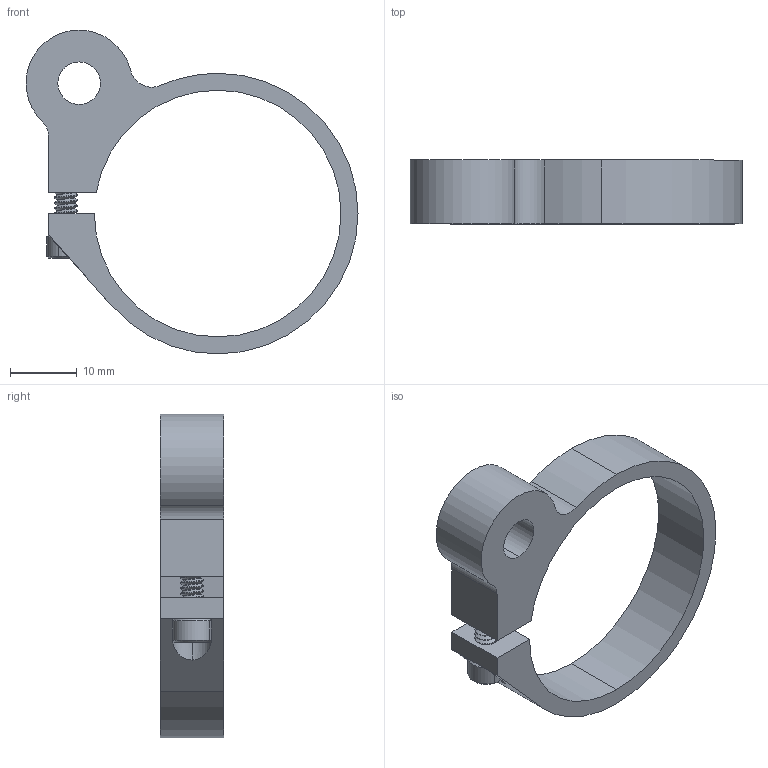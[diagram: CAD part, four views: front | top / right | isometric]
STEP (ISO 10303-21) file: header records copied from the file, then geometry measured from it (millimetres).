
FILE_DESCRIPTION (( 'STEP AP203' ), '1' );
FILE_NAME ('555136 assembly.STEP', '2016-08-18T18:40:43', ( '' ), ( '' ), 'SwSTEP 2.0', 'SolidWorks 2014', '' );
FILE_SCHEMA (( 'CONFIG_CONTROL_DESIGN' ));
Length unit declared in the file: inch
Products named in the file (3): 555136 assembly; 632110_90128A121; 555136
Assembly tree (2 placements, depth 2):
  555136 assembly
    555136
    632110_90128A121
Bounding box: 49.58 x 9.53 x 48.35 mm (x, y, z)
Volume: 5322.7 mm3; surface area: 4424.5 mm2
Topology: 2 solids, 2 shells, 137 faces, 373 edges, 241 vertices
Faces by surface type: cylinder 97, plane 20, cone 16, bspline 4
Entity records: 7062 total; most frequent: CARTESIAN_POINT 3773, ORIENTED_EDGE 742, DIRECTION 529, EDGE_CURVE 371, VERTEX_POINT 241, AXIS2_PLACEMENT_3D 196, EDGE_LOOP 144, ADVANCED_FACE 137
